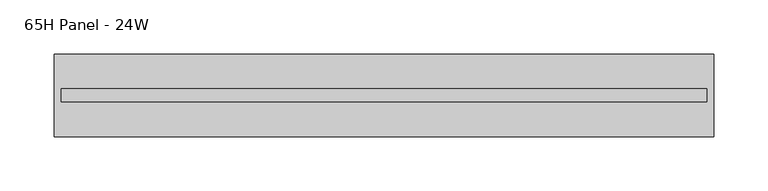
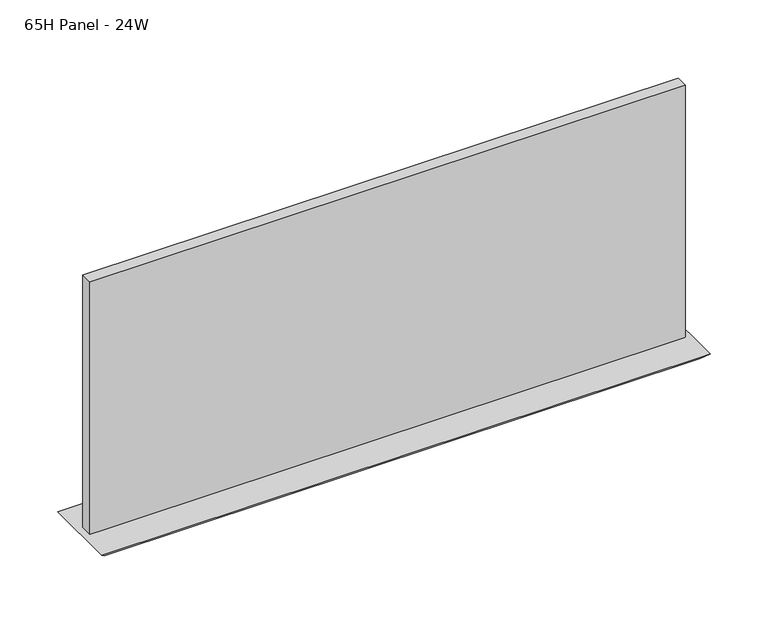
"""IFC4 building model written with IfcOpenShell, lengths in millimetres: furniture geometry, Steelcase - Montage - Tiles - 10H - Frameless Glass Stacker : 65H Panel - 24W."""

from ifc_helpers import new_model, si_unit, frame, origin, place, context, project, spatial, polyline, outline, extrude, faceted_brep, source, transform, mapped, element, save


def furniture_65h_panel_24w_d5945aa2(model_context):
    return source(origin(), model_context, "Body", "SolidModel", [
        faceted_brep([(609.6, -38.1000015, 1660.525), (0.0, -38.1000015, 1660.525), (6.35, -31.7500015, 1654.175), (603.25, -31.7500015, 1654.175), (6.35, 31.7500015, 1654.175), (603.25, 31.7500015, 1654.175), (0.0, 38.1000015, 1660.525), (609.6, 38.1000015, 1660.525)], [[[0, 1, 2, 3]], [[3, 2, 4, 5]], [[6, 7, 5, 4]], [[1, 0, 7, 6]], [[2, 1, 6, 4]], [[0, 3, 5, 7]]]),
        extrude(outline(polyline([(602.8181828, -5.9944001), (6.7818001, -5.9944001), (6.7818001, 5.9944008), (602.8181828, 5.9944008), (602.8181828, -5.9944001)])), frame((0.0, 0.0, 1660.525), z_axis=(0.0, 0.0, 1.0), x_axis=(1.0, 0.0, 0.0)), (0.0, 0.0, 1.0), 267.7160475),
    ])


if __name__ == "__main__":
    model = new_model("IFC4")
    model_context = context("Model", 3, world=origin())
    ifc_project = project(units=[si_unit("LENGTHUNIT", "METRE", prefix="MILLI")], contexts=[model_context])
    site = spatial("IfcSite", under=ifc_project)
    building = spatial("IfcBuilding", under=site)
    placement = place(None, origin())
    furniture_65h_panel_24w_shape = furniture_65h_panel_24w_d5945aa2(model_context)
    element("IfcFurniture", 1, ObjectType="Steelcase - Montage - Tiles - 10H - Frameless Glass Stacker : 65H Panel - 24W", at=placement, inside=building, context=model_context, shape_type="MappedRepresentation", body=[
        mapped(furniture_65h_panel_24w_shape, transform((0.0, 0.0, 0.0), x_axis=(1.0, 0.0, 0.0), y_axis=(0.0, 1.0, 0.0), z_axis=(0.0, 0.0, 1.0))),
    ])
    save(model, "model.ifc")
